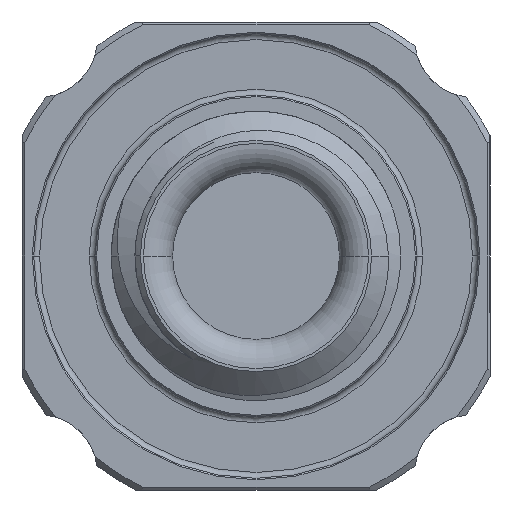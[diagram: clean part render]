
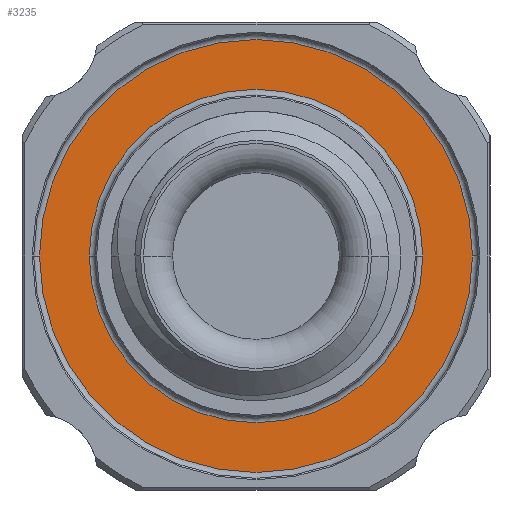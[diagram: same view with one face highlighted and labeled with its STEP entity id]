
A CAD part, left-side view. The second image highlights one B-rep face of the part: STEP entity #3235.
In plain terms, the highlighted planar face has unit normal (-1, 0, 0) as drawn and (0, -1, 0) by its records, which use the part's own axes.
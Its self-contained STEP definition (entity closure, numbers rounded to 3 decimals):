
#177 = EDGE_CURVE ( 'NONE', #3851, #516, #5130, .T. ) ;
#250 = EDGE_LOOP ( 'NONE', ( #4949, #918 ) ) ;
#283 = CARTESIAN_POINT ( 'NONE',  ( 7.4, 21.25, 0. ) ) ;
#516 = VERTEX_POINT ( 'NONE', #2776 ) ;
#903 = DIRECTION ( 'NONE',  ( 1., 0., 0. ) ) ;
#918 = ORIENTED_EDGE ( 'NONE', *, *, #2266, .F. ) ;
#1433 = CARTESIAN_POINT ( 'NONE',  ( -5.7, 21.25, 0. ) ) ;
#1610 = VERTEX_POINT ( 'NONE', #283 ) ;
#1654 = DIRECTION ( 'NONE',  ( 0., 1., 0. ) ) ;
#1689 = CARTESIAN_POINT ( 'NONE',  ( 0., 21.25, 0. ) ) ;
#1761 = EDGE_LOOP ( 'NONE', ( #5619, #4528 ) ) ;
#1790 = CARTESIAN_POINT ( 'NONE',  ( -7.4, 21.25, 0. ) ) ;
#1889 = AXIS2_PLACEMENT_3D ( 'NONE', #2535, #4987, #4920 ) ;
#2266 = EDGE_CURVE ( 'NONE', #1610, #5005, #6197, .T. ) ;
#2429 = DIRECTION ( 'NONE',  ( 0., 1., 0. ) ) ;
#2535 = CARTESIAN_POINT ( 'NONE',  ( 0., 21.25, 0. ) ) ;
#2776 = CARTESIAN_POINT ( 'NONE',  ( 5.7, 21.25, 0. ) ) ;
#2830 = AXIS2_PLACEMENT_3D ( 'NONE', #4387, #2429, #6402 ) ;
#2872 = CARTESIAN_POINT ( 'NONE',  ( -5.7, 21.25, 0. ) ) ;
#3032 = DIRECTION ( 'NONE',  ( -1., 0., 0. ) ) ;
#3235 = ADVANCED_FACE ( 'NONE', ( #5881, #3345 ), #4363, .T. ) ;
#3345 = FACE_OUTER_BOUND ( 'NONE', #250, .T. ) ;
#3380 = AXIS2_PLACEMENT_3D ( 'NONE', #1433, #6308, #903 ) ;
#3728 = DIRECTION ( 'NONE',  ( -1., 0., 0. ) ) ;
#3772 = CIRCLE ( 'NONE', #4293, 7.4 ) ;
#3851 = VERTEX_POINT ( 'NONE', #2872 ) ;
#3882 = CIRCLE ( 'NONE', #1889, 5.7 ) ;
#4250 = EDGE_CURVE ( 'NONE', #516, #3851, #3882, .T. ) ;
#4293 = AXIS2_PLACEMENT_3D ( 'NONE', #4747, #5730, #3728 ) ;
#4363 = PLANE ( 'NONE',  #3380 ) ;
#4387 = CARTESIAN_POINT ( 'NONE',  ( 0., 21.25, 0. ) ) ;
#4528 = ORIENTED_EDGE ( 'NONE', *, *, #4250, .T. ) ;
#4648 = AXIS2_PLACEMENT_3D ( 'NONE', #1689, #1654, #3032 ) ;
#4747 = CARTESIAN_POINT ( 'NONE',  ( 0., 21.25, 0. ) ) ;
#4920 = DIRECTION ( 'NONE',  ( -1., 0., 0. ) ) ;
#4949 = ORIENTED_EDGE ( 'NONE', *, *, #5671, .F. ) ;
#4987 = DIRECTION ( 'NONE',  ( 0., 1., 0. ) ) ;
#5005 = VERTEX_POINT ( 'NONE', #1790 ) ;
#5130 = CIRCLE ( 'NONE', #2830, 5.7 ) ;
#5619 = ORIENTED_EDGE ( 'NONE', *, *, #177, .T. ) ;
#5671 = EDGE_CURVE ( 'NONE', #5005, #1610, #3772, .T. ) ;
#5730 = DIRECTION ( 'NONE',  ( 0., 1., 0. ) ) ;
#5881 = FACE_BOUND ( 'NONE', #1761, .T. ) ;
#6197 = CIRCLE ( 'NONE', #4648, 7.4 ) ;
#6308 = DIRECTION ( 'NONE',  ( 0., -1., 0. ) ) ;
#6402 = DIRECTION ( 'NONE',  ( -1., 0., 0. ) ) ;
